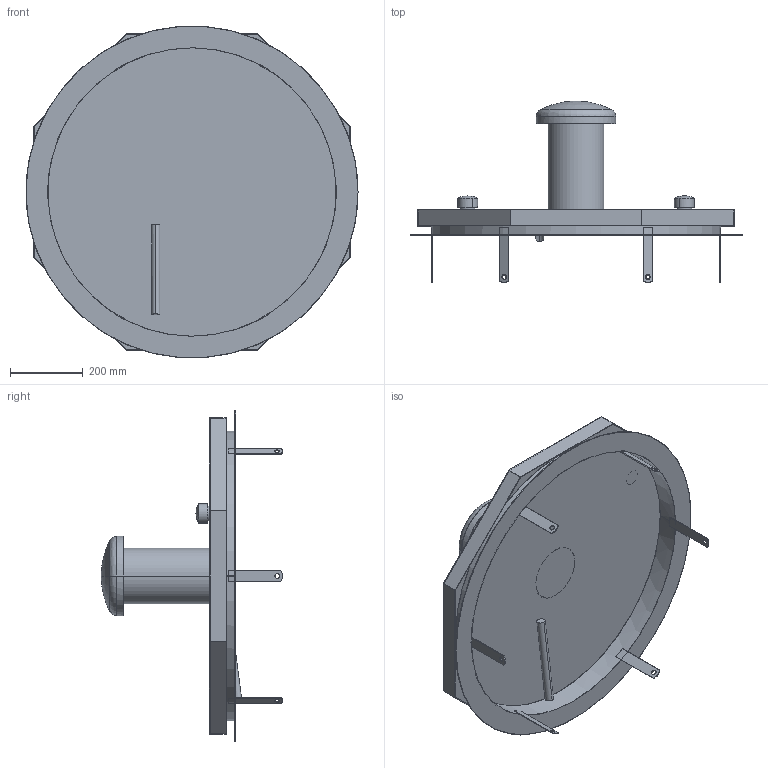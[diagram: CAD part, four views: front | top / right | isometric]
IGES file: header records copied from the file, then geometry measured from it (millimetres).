
Start section:  PTC IGES file: 52179935.igs
Global section: file name: 52179935.igs; native system: Creo Parametric by PTC Inc.; preprocessor: 2023154; author: hrl; organization: Unknown; date: 20240212.135148; units: millimetre
Bounding box: 915 x 500 x 913.18 mm (x, y, z)
Surface area: 2609491.9 mm2 (no closed solid volume)
Topology: 0 solids, 0 shells, 113 faces, 568 edges, 560 vertices
Faces by surface type: bspline 59, revolution 54
